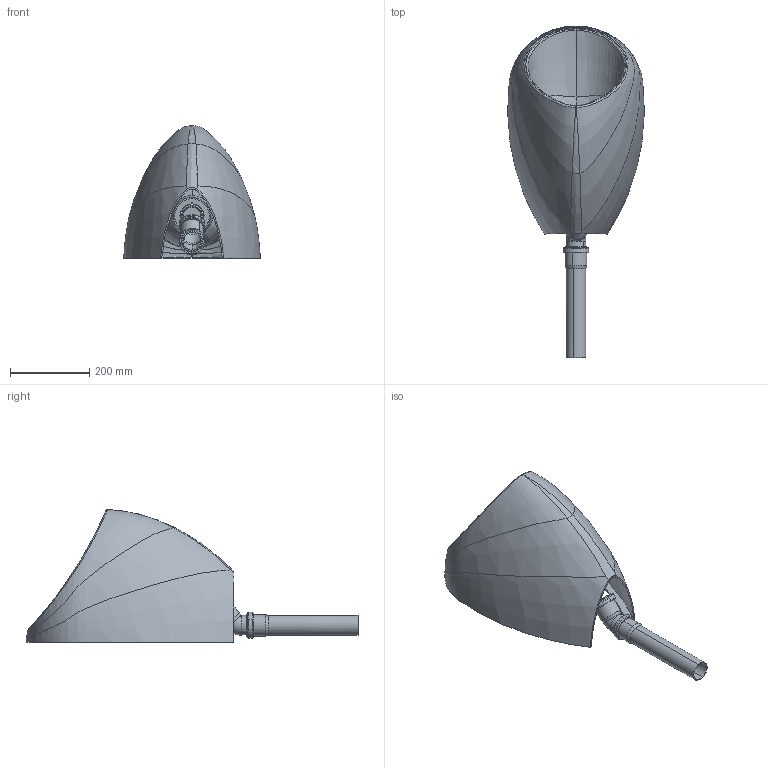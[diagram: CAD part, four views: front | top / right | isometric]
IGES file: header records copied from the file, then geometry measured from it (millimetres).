
Global section: file name: No Iges File Name specified; native system: Autodesk Inventor 2009; preprocessor: AutoDesk Inventor Iges Exporter R2009; author: Finn Lundsgaard; date: 20100207.042343; units: millimetre
Bounding box: 345.18 x 838 x 334.88 mm (x, y, z)
Volume: 1639004.8 mm3; surface area: 1125520.7 mm2
Topology: 7 solids, 7 shells, 180 faces, 484 edges, 312 vertices
Faces by surface type: bspline 50, revolution 47, plane 26, torus 22, cylinder 19, cone 16
